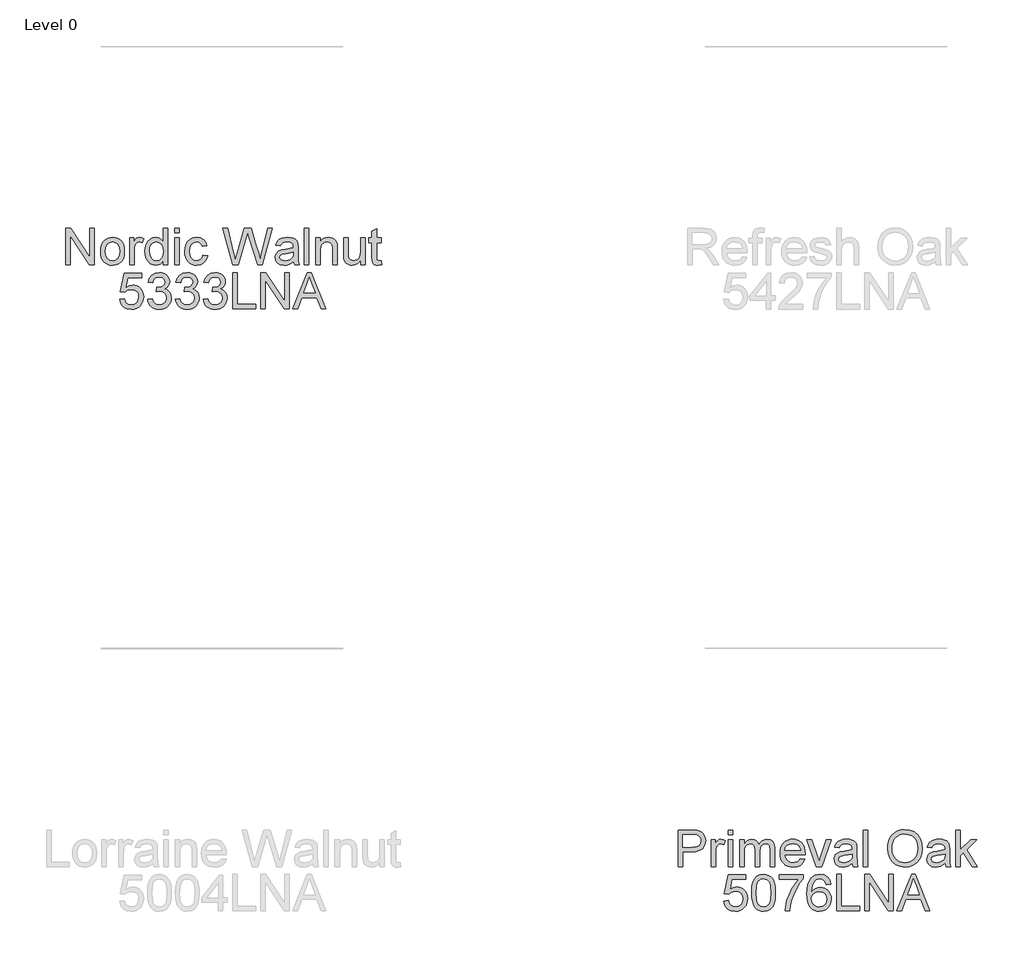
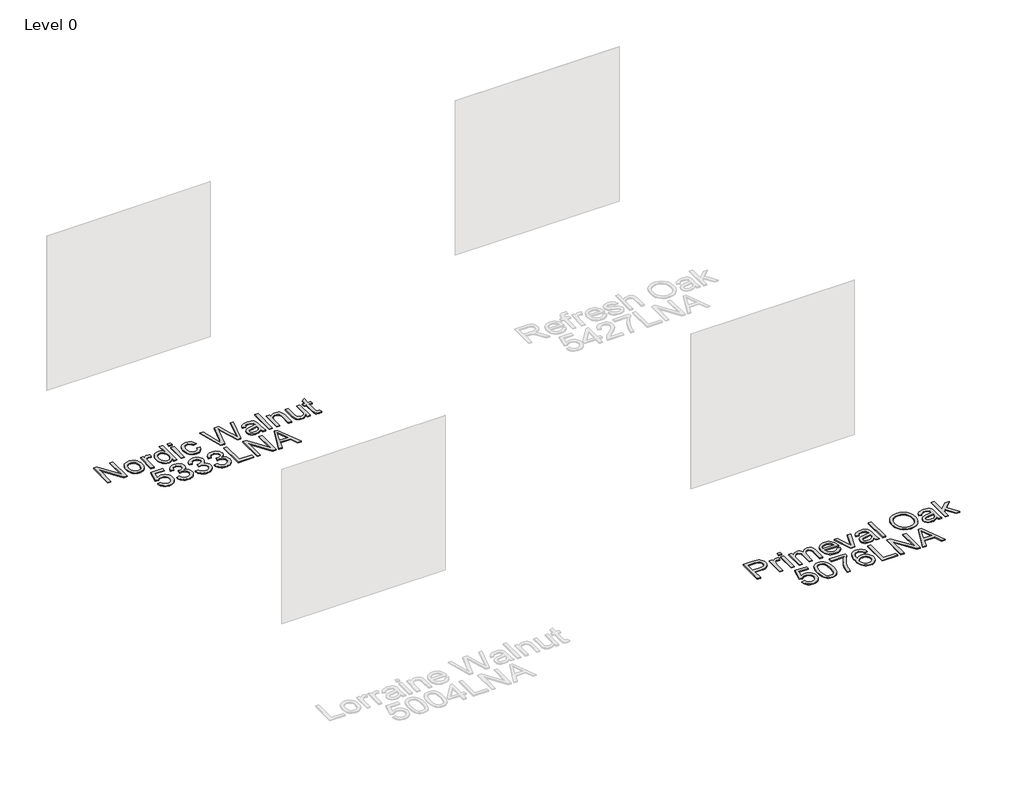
# One storey, part 38 of 43: 2 proxies.
"""IFC4 building model written with IfcOpenShell, lengths in millimetres."""

from ifc_helpers import new_model, si_unit, origin, origin_with_axes, place, context, project, spatial, polyline, outline, extrude, element, save

model = new_model("IFC4")

# Units and contexts
model_context = context("Model", 3, world=origin())
ifc_project = project(units=[si_unit("LENGTHUNIT", "METRE", prefix="MILLI")], contexts=[model_context])

# Site, building, storey
site = spatial("IfcSite", under=ifc_project)
building = spatial("IfcBuilding", under=site)
storey = spatial("IfcBuildingStorey", under=building, Name="Level 0", Elevation=0.0)

# Proxies
placement = place(None, origin())
element("IfcBuildingElementProxy", 1, Name="300mm Arial", ObjectType="300mm Arial", at=placement, inside=storey, context=model_context, shape_type="SweptSolid", body=[
    extrude(outline(polyline([(31256.7517654, -22016.4454346), (31256.7517654, -21715.0765041), (31297.0716321, -21715.0765041), (31454.525126, -21953.831919), (31454.525126, -21715.0765041), (31492.1962424, -21715.0765041), (31492.1962424, -22016.4454346), (31451.8763757, -22016.4454346), (31294.4228817, -21777.6164433), (31294.4228817, -22016.4454346), (31256.7517654, -22016.4454346)])), origin_with_axes(), (0.0, 0.0, 1.0), 10.0),
    extrude(outline(polyline([(31543.9940273, -21905.7865304), (31546.0311738, -21877.1239245), (31552.1426135, -21852.425247), (31562.3283462, -21831.690498), (31576.588372, -21814.9196776), (31590.9449669, -21804.200516), (31606.7914839, -21796.5439719), (31624.1279229, -21791.9500455), (31642.954284, -21790.4187367), (31663.7373174, -21792.2834386), (31682.5291896, -21797.8775442), (31699.3299005, -21807.2010535), (31714.13945, -21820.2539665), (31726.2266728, -21836.5948249), (31734.8604034, -21855.7821702), (31740.0406418, -21877.8160025), (31741.7673879, -21902.6963216), (31738.7139673, -21940.753714), (31729.5537056, -21969.7244212), (31714.5533173, -21991.4202618), (31693.9795167, -22007.6530549), (31669.5429552, -22017.7790068), (31642.954284, -22021.1543241), (31621.8677479, -22019.29652), (31602.9011318, -22013.7231078), (31586.0544356, -22004.4340874), (31571.3276595, -21991.4294589), (31559.3691954, -21974.9299514), (31550.8274353, -21955.1562942), (31545.7023793, -21932.1084872), (31543.9940273, -21905.7865304)]), holes=[polyline([(31581.6651436, -21905.712954), (31586.0245452, -21939.8064179), (31599.1027502, -21964.0958266), (31618.7844369, -21978.6363625), (31642.954284, -21983.4832078), (31667.0137665, -21978.6087713), (31686.658665, -21963.985462), (31699.7368699, -21939.3741566), (31704.0962716, -21904.5357316), (31699.7092788, -21871.4355491), (31686.5483004, -21847.4772342), (31666.8758107, -21832.9366983), (31642.954284, -21828.089853), (31618.7844369, -21832.9183042), (31599.1027502, -21847.4036578), (31586.0245452, -21871.6378842), (31581.6651436, -21905.712954)])]), origin_with_axes(), (0.0, 0.0, 1.0), 10.0),
    extrude(outline(polyline([(31784.1473937, -22016.4454346), (31784.1473937, -21795.1276263), (31817.1096205, -21795.1276263), (31817.1096205, -21827.8691238), (31829.2865145, -21808.8864129), (31840.5069154, -21797.7028002), (31851.7641044, -21792.2397526), (31864.0513631, -21790.4187367), (31882.8133448, -21793.3250045), (31901.8696322, -21802.0438078), (31889.2880679, -21835.8153749), (31876.0443161, -21830.0212335), (31862.8005643, -21828.089853), (31851.5525723, -21829.9476571), (31841.5001968, -21835.5210693), (31833.3792017, -21844.3870254), (31827.9253512, -21856.1224611), (31823.3452203, -21877.1653112), (31821.81851, -21900.1211477), (31821.81851, -22016.4454346), (31784.1473937, -22016.4454346)])), origin_with_axes(), (0.0, 0.0, 1.0), 10.0),
    extrude(outline(polyline([(32061.9718765, -22016.4454346), (32061.9718765, -21980.9080338), (32050.7008919, -21998.5157858), (32037.0478713, -22011.0927515), (32021.0128148, -22018.6389309), (32002.5957225, -22021.1543241), (31978.2419344, -22017.5122923), (31955.9482855, -22006.5861971), (31937.0759391, -21989.1393935), (31922.9860587, -21965.9352366), (31914.2120731, -21937.9118256), (31911.2874113, -21906.0072596), (31913.9821469, -21874.4981667), (31922.0663537, -21846.0424944), (31935.5308347, -21822.2589234), (31954.3663929, -21804.7661345), (31977.1474854, -21794.0055862), (32002.4485697, -21790.4187367), (32020.8794576, -21792.9847136), (32037.17663, -21800.6826444), (32050.9905989, -21812.4824594), (32061.9718765, -21827.354089), (32061.9718765, -21715.0765041), (32099.6429928, -21715.0765041), (32099.6429928, -22016.4454346), (32061.9718765, -22016.4454346)]), holes=[polyline([(31948.9585276, -21905.8601068), (31953.2075646, -21939.9351766), (31965.9546757, -21964.169403), (31984.4775342, -21978.6547566), (32006.0538132, -21983.4832078), (32027.6208952, -21978.8754858), (32045.6747041, -21965.0523198), (32057.8975834, -21941.7561925), (32061.9718765, -21908.7295864), (32057.824007, -21872.6219685), (32045.3803985, -21847.5875988), (32026.8667371, -21832.9642895), (32004.5087088, -21828.089853), (31982.7117006, -21832.7711514), (31964.8510298, -21846.8150466), (31952.9316531, -21870.9389084), (31948.9585276, -21905.8601068)])]), origin_with_axes(), (0.0, 0.0, 1.0), 10.0),
    extrude(outline(polyline([(32156.1496672, -21752.7476204), (32156.1496672, -21715.0765041), (32193.8207836, -21715.0765041), (32193.8207836, -21752.7476204), (32156.1496672, -21752.7476204)])), origin_with_axes(), (0.0, 0.0, 1.0), 10.0),
    extrude(outline(polyline([(32156.1496672, -22016.4454346), (32156.1496672, -21795.1276263), (32193.8207836, -21795.1276263), (32193.8207836, -22016.4454346), (32156.1496672, -22016.4454346)])), origin_with_axes(), (0.0, 0.0, 1.0), 10.0),
    extrude(outline(polyline([(32391.5941442, -21936.3943124), (32429.2652605, -21941.1032019), (32418.7622295, -21974.6080546), (32399.0253605, -21999.927533), (32371.9124574, -22015.8476263), (32339.2813244, -22021.1543241), (32318.1534016, -22019.3034178), (32299.2097781, -22013.7506989), (32282.450454, -22004.4961675), (32267.8754292, -21991.5398235), (32256.0779134, -21975.1253887), (32247.6511165, -21955.496585), (32242.5950383, -21932.6534124), (32240.9096789, -21906.5958708), (32243.7883555, -21873.072624), (32252.4243854, -21844.0191434), (32266.9557242, -21820.5574692), (32287.5203277, -21803.8096413), (32312.1224362, -21793.7664629), (32338.7662897, -21790.4187367), (32370.5972793, -21795.0172617), (32396.0455163, -21808.8128365), (32414.3016603, -21831.0696972), (32424.5563709, -21861.0520798), (32386.8852546, -21865.7609693), (32380.0518466, -21849.3258412), (32369.4108599, -21837.5444203), (32355.5509057, -21830.4534948), (32339.0605952, -21828.089853), (32314.7160042, -21832.7435603), (32295.3930024, -21846.704682), (32282.783847, -21870.7273763), (32278.5807952, -21905.5658012), (32282.6918765, -21940.8732757), (32295.0251204, -21964.9787434), (32313.9986343, -21978.8570917), (32338.0305257, -21983.4832078), (32357.5374685, -21980.5953341), (32373.5311382, -21971.9317131), (32385.1654063, -21957.2716156), (32391.5941442, -21936.3943124)])), origin_with_axes(), (0.0, 0.0, 1.0), 10.0),
    extrude(outline(polyline([(32638.5901157, -22016.4454346), (32556.405278, -21715.0765041), (32595.2536167, -21715.0765041), (32642.9311233, -21913.1441703), (32657.6464031, -21974.2861579), (32673.3917525, -21920.2075046), (32733.1357885, -21715.0765041), (32789.1274281, -21715.0765041), (32832.5375036, -21863.7744066), (32851.1339384, -21918.9567058), (32864.8375428, -21974.2861579), (32879.1113642, -21914.9100039), (32927.2303291, -21715.0765041), (32966.0786678, -21715.0765041), (32883.8202537, -22016.4454346), (32843.5739634, -22016.4454346), (32771.3219396, -21783.9440136), (32761.2419729, -21751.4968216), (32749.9112075, -21790.5658895), (32684.0603303, -22016.4454346), (32638.5901157, -22016.4454346)])), origin_with_axes(), (0.0, 0.0, 1.0), 10.0),
    extrude(outline(polyline([(33140.3075807, -21988.1920973), (33122.3089541, -22003.624747), (33103.7768986, -22013.7231078), (33084.2883499, -22019.29652), (33063.4202438, -22021.1543241), (33031.938742, -22016.6845578), (33008.7161911, -22003.2752591), (32994.3963844, -21982.9129907), (32989.6231155, -21957.5843153), (32991.4257373, -21941.9677246), (32996.8336026, -21927.7858737), (33005.1753269, -21915.6457679), (33015.7795254, -21906.1544124), (33042.1566644, -21893.7935774), (33074.7510092, -21888.1281946), (33113.2682541, -21882.1685063), (33140.0868515, -21875.1787484), (33140.3075807, -21866.7910389), (33137.7140127, -21849.9788317), (33129.9333085, -21838.9791601), (33112.5324901, -21830.8121798), (33088.2890666, -21828.089853), (33065.8482649, -21829.9016718), (33050.1764919, -21835.3371283), (33039.48952, -21845.3895038), (33032.0031214, -21861.0520798), (32994.3320051, -21856.3431903), (33000.8711075, -21835.7417985), (33010.6291774, -21819.5549907), (33024.5167228, -21807.1757616), (33043.4442514, -21797.9971058), (33066.593226, -21792.313329), (33093.145109, -21790.4187367), (33118.6117401, -21792.0925998), (33138.7992646, -21797.114189), (33154.0203821, -21804.664967), (33164.5877924, -21813.9263962), (33171.5959444, -21825.3767233), (33176.1392871, -21839.4941949), (33177.9786971, -21872.4564216), (33177.9786971, -21919.3245878), (33179.8916834, -21984.7707948), (33187.3964761, -22016.4454346), (33149.7253598, -22016.4454346), (33140.3075807, -21988.1920973)]), holes=[polyline([(33140.3075807, -21912.8498647), (33079.5334751, -21924.4013594), (33047.1230714, -21930.5082005), (33032.4445798, -21940.4410143), (33027.2942318, -21954.935565), (33030.099332, -21966.1375717), (33038.5146327, -21975.3162275), (33052.3561927, -21981.4414627), (33071.4400712, -21983.4832078), (33091.673581, -21981.2299306), (33109.5526459, -21974.4700989), (33124.0471966, -21964.5096939), (33134.1271632, -21952.6546966), (33138.5969295, -21940.4410143), (33140.0868515, -21923.5184426), (33140.3075807, -21912.8498647)])]), origin_with_axes(), (0.0, 0.0, 1.0), 10.0),
    extrude(outline(polyline([(33229.776482, -22016.4454346), (33229.776482, -21715.0765041), (33267.4475983, -21715.0765041), (33267.4475983, -22016.4454346), (33229.776482, -22016.4454346)])), origin_with_axes(), (0.0, 0.0, 1.0), 10.0),
    extrude(outline(polyline([(33323.9542727, -22016.4454346), (33323.9542727, -21795.1276263), (33361.625389, -21795.1276263), (33361.625389, -21826.0297138), (33374.712791, -21810.4499114), (33390.4305493, -21799.321481), (33408.7786638, -21792.6444228), (33429.7571345, -21790.4187367), (33448.3259783, -21792.2121614), (33465.3313235, -21797.5924356), (33479.5131744, -21805.8881746), (33489.6115352, -21816.4279938), (33500.9055124, -21844.129508), (33502.8920752, -21880.5498255), (33502.8920752, -22016.4454346), (33465.2209589, -22016.4454346), (33465.2209589, -21885.6265971), (33460.8799513, -21852.2964883), (33454.8742778, -21842.3728715), (33445.5392721, -21834.6749407), (33433.5739102, -21829.7361249), (33419.6771679, -21828.089853), (33397.6134452, -21831.7870671), (33378.8054782, -21842.8787092), (33371.2891892, -21851.9332048), (33365.9204113, -21864.3078354), (33361.625389, -21899.0175017), (33361.625389, -22016.4454346), (33323.9542727, -22016.4454346)])), origin_with_axes(), (0.0, 0.0, 1.0), 10.0),
    extrude(outline(polyline([(33695.9565463, -22016.4454346), (33695.9565463, -21978.4064362), (33682.3265183, -21997.1086372), (33666.4524102, -22010.4673521), (33648.334222, -22018.4825811), (33627.9719536, -22021.1543241), (33609.623839, -22019.2781259), (33592.5449174, -22013.6495314), (33578.2159137, -22005.1882455), (33568.1175529, -21994.8139732), (33556.8971521, -21967.0756708), (33554.6898601, -21932.0533049), (33554.6898601, -21795.1276263), (33592.3609764, -21795.1276263), (33592.3609764, -21914.3213927), (33594.6418448, -21952.728273), (33600.1324836, -21965.5397635), (33609.5410656, -21975.2794393), (33622.2421915, -21981.4322657), (33637.6104618, -21983.4832078), (33653.861649, -21981.3862804), (33669.0643724, -21975.0954983), (33681.5999514, -21965.1902756), (33689.8497051, -21952.2500264), (33694.429836, -21934.5273113), (33695.9565463, -21910.2746907), (33695.9565463, -21795.1276263), (33733.6276626, -21795.1276263), (33733.6276626, -22016.4454346), (33695.9565463, -22016.4454346)])), origin_with_axes(), (0.0, 0.0, 1.0), 10.0),
    extrude(outline(polyline([(33865.4765696, -21985.0283122), (33870.1854592, -22017.5490805), (33842.0056983, -22021.1543241), (33823.9242983, -22019.5908256), (33810.4414232, -22014.9003302), (33800.9132795, -22007.671449), (33794.6960738, -21998.4927932), (33791.2747712, -21982.7290497), (33790.134337, -21955.7449053), (33790.134337, -21832.7987426), (33761.8809998, -21832.7987426), (33761.8809998, -21795.1276263), (33790.134337, -21795.1276263), (33790.134337, -21741.3432786), (33827.8054533, -21719.1967824), (33827.8054533, -21795.1276263), (33865.4765696, -21795.1276263), (33865.4765696, -21832.7987426), (33827.8054533, -21832.7987426), (33827.8054533, -21954.6412594), (33829.7920161, -21974.0654287), (33836.229951, -21980.944822), (33849.0690327, -21983.4832078), (33865.4765696, -21985.0283122)])), origin_with_axes(), (0.0, 0.0, 1.0), 10.0),
    extrude(outline(polyline([(31701.7418268, -22302.3187659), (31739.4129431, -22297.6098764), (31746.3291246, -22320.2254221), (31758.3956541, -22336.4214269), (31775.5573491, -22346.1611027), (31797.7590275, -22349.4076613), (31824.761566, -22344.8919098), (31844.9950757, -22331.3446554), (31857.6318223, -22310.3293964), (31861.8440711, -22283.4096314), (31857.8985367, -22258.0625619), (31846.0619335, -22238.6751808), (31826.242291, -22226.369528), (31798.3476387, -22222.2676438), (31780.0731006, -22223.9047187), (31765.2750474, -22228.8159433), (31744.1218326, -22245.8120915), (31706.4507163, -22241.1032019), (31739.4129431, -22085.7098472), (31885.3885188, -22085.7098472), (31885.3885188, -22123.3809635), (31769.8735723, -22123.3809635), (31753.7603409, -22206.3751416), (31780.6709089, -22190.041181), (31808.8690638, -22184.5965275), (31827.214879, -22186.2841861), (31844.0661737, -22191.3471621), (31859.4229477, -22199.7854554), (31873.2852012, -22211.5990659), (31884.7608201, -22226.0660254), (31892.9576908, -22242.4643653), (31897.8758133, -22260.7940857), (31899.5151874, -22281.0551866), (31893.6106814, -22318.7263029), (31886.2300489, -22335.520116), (31875.8971633, -22350.9527657), (31860.2437844, -22366.7578959), (31841.9784434, -22378.0472746), (31821.1011401, -22384.8209019), (31797.6118747, -22387.0787776), (31760.6121431, -22381.2754392), (31744.9334723, -22374.0212661), (31731.1355982, -22363.8654237), (31719.6553807, -22351.3137499), (31710.9296796, -22336.8720823), (31701.7418268, -22302.3187659)])), origin_with_axes(), (0.0, 0.0, 1.0), 10.0),
    extrude(outline(polyline([(31932.4774142, -22302.3187659), (31970.1485305, -22297.6098764), (31978.5822252, -22321.2830828), (31990.9338632, -22337.2675555), (32007.8104497, -22346.3726349), (32029.8189901, -22349.4076613), (32055.6443062, -22345.2322007), (32075.5835103, -22332.7058187), (32088.3306214, -22314.0174134), (32092.5796585, -22291.3558825), (32088.3674096, -22269.8439828), (32075.7306631, -22252.3971792), (32056.6007994, -22240.8364875), (32032.9091989, -22236.9829236), (32006.4952716, -22241.1032019), (32010.6891264, -22203.4320856), (32016.7223911, -22203.873544), (32039.2919515, -22201.1696114), (32059.4702789, -22193.0578134), (32073.7073121, -22179.3358149), (32078.4529899, -22159.801281), (32075.0132932, -22143.5316998), (32064.6942032, -22130.3339332), (32048.9488539, -22121.5875388), (32029.2303789, -22118.6720739), (32009.4751158, -22121.6151299), (31993.3250962, -22130.4442978), (31981.5344782, -22145.1595776), (31974.85742, -22165.7609693), (31937.1863037, -22161.0520798), (31948.2779459, -22127.2253303), (31968.0148149, -22101.9702314), (31995.0173534, -22086.2432761), (32027.9060037, -22081.0009576), (32051.5884072, -22083.5853287), (32073.3394301, -22091.3384417), (32091.6783476, -22103.570518), (32105.1244345, -22119.5917789), (32113.3741883, -22138.050258), (32116.1241062, -22157.593989), (32113.512144, -22175.8041478), (32105.6762575, -22192.3220494), (32092.7268113, -22206.3935357), (32074.7741699, -22217.2644487), (32098.3554058, -22226.7925923), (32115.8298006, -22243.0161883), (32126.6455312, -22265.0523198), (32130.2507748, -22292.0180701), (32128.448153, -22311.1295397), (32123.0402877, -22328.7326932), (32114.0271788, -22344.8275305), (32101.4088264, -22359.4140516), (32086.0359575, -22371.5173692), (32068.7592993, -22380.1625961), (32049.5788518, -22385.3497322), (32028.4946149, -22387.0787776), (32009.4383276, -22385.6026511), (31992.0742974, -22381.1742716), (31976.4025244, -22373.7936391), (31962.4230086, -22363.4607535), (31950.7013685, -22350.7826203), (31941.8032228, -22336.3662446), (31935.7285713, -22320.2116265), (31932.4774142, -22302.3187659)])), origin_with_axes(), (0.0, 0.0, 1.0), 10.0),
    extrude(outline(polyline([(32163.2130016, -22302.3187659), (32200.8841179, -22297.6098764), (32209.3178126, -22321.2830828), (32221.6694506, -22337.2675555), (32238.5460371, -22346.3726349), (32260.5545775, -22349.4076613), (32286.3798935, -22345.2322007), (32306.3190977, -22332.7058187), (32319.0662088, -22314.0174134), (32323.3152459, -22291.3558825), (32319.102997, -22269.8439828), (32306.4662505, -22252.3971792), (32287.3363867, -22240.8364875), (32263.6447862, -22236.9829236), (32237.230859, -22241.1032019), (32241.4247137, -22203.4320856), (32247.4579785, -22203.873544), (32270.0275389, -22201.1696114), (32290.2058663, -22193.0578134), (32304.4428995, -22179.3358149), (32309.1885772, -22159.801281), (32305.7488806, -22143.5316998), (32295.4297906, -22130.3339332), (32279.6844412, -22121.5875388), (32259.9659663, -22118.6720739), (32240.2107031, -22121.6151299), (32224.0606836, -22130.4442978), (32212.2700656, -22145.1595776), (32205.5930074, -22165.7609693), (32167.9218911, -22161.0520798), (32179.0135332, -22127.2253303), (32198.7504023, -22101.9702314), (32225.7529407, -22086.2432761), (32258.6415911, -22081.0009576), (32282.3239945, -22083.5853287), (32304.0750175, -22091.3384417), (32322.413935, -22103.570518), (32335.8600219, -22119.5917789), (32344.1097756, -22138.050258), (32346.8596935, -22157.593989), (32344.2477314, -22175.8041478), (32336.4118449, -22192.3220494), (32323.4623987, -22206.3935357), (32305.5097573, -22217.2644487), (32329.0909932, -22226.7925923), (32346.565388, -22243.0161883), (32357.3811186, -22265.0523198), (32360.9863622, -22292.0180701), (32359.1837404, -22311.1295397), (32353.7758751, -22328.7326932), (32344.7627662, -22344.8275305), (32332.1444137, -22359.4140516), (32316.7715449, -22371.5173692), (32299.4948867, -22380.1625961), (32280.3144391, -22385.3497322), (32259.2302023, -22387.0787776), (32240.1739149, -22385.6026511), (32222.8098848, -22381.1742716), (32207.1381118, -22373.7936391), (32193.158596, -22363.4607535), (32181.4369559, -22350.7826203), (32172.5388101, -22336.3662446), (32166.4641587, -22320.2116265), (32163.2130016, -22302.3187659)])), origin_with_axes(), (0.0, 0.0, 1.0), 10.0),
    extrude(outline(polyline([(32393.9485889, -22302.3187659), (32431.6197052, -22297.6098764), (32440.0534, -22321.2830828), (32452.405038, -22337.2675555), (32469.2816245, -22346.3726349), (32491.2901649, -22349.4076613), (32517.1154809, -22345.2322007), (32537.0546851, -22332.7058187), (32549.8017962, -22314.0174134), (32554.0508332, -22291.3558825), (32549.8385844, -22269.8439828), (32537.2018379, -22252.3971792), (32518.0719741, -22240.8364875), (32494.3803736, -22236.9829236), (32467.9664464, -22241.1032019), (32472.1603011, -22203.4320856), (32478.1935658, -22203.873544), (32500.7631262, -22201.1696114), (32520.9414537, -22193.0578134), (32535.1784869, -22179.3358149), (32539.9241646, -22159.801281), (32536.484468, -22143.5316998), (32526.165378, -22130.3339332), (32510.4200286, -22121.5875388), (32490.7015537, -22118.6720739), (32470.9462905, -22121.6151299), (32454.7962709, -22130.4442978), (32443.005653, -22145.1595776), (32436.3285948, -22165.7609693), (32398.6574785, -22161.0520798), (32409.7491206, -22127.2253303), (32429.4859897, -22101.9702314), (32456.4885281, -22086.2432761), (32489.3771785, -22081.0009576), (32513.0595819, -22083.5853287), (32534.8106049, -22091.3384417), (32553.1495223, -22103.570518), (32566.5956093, -22119.5917789), (32574.845363, -22138.050258), (32577.5952809, -22157.593989), (32574.9833188, -22175.8041478), (32567.1474323, -22192.3220494), (32554.197986, -22206.3935357), (32536.2453447, -22217.2644487), (32559.8265806, -22226.7925923), (32577.3009753, -22243.0161883), (32588.116706, -22265.0523198), (32591.7219495, -22292.0180701), (32589.9193278, -22311.1295397), (32584.5114624, -22328.7326932), (32575.4983535, -22344.8275305), (32562.8800011, -22359.4140516), (32547.5071322, -22371.5173692), (32530.230474, -22380.1625961), (32511.0500265, -22385.3497322), (32489.9657897, -22387.0787776), (32470.9095023, -22385.6026511), (32453.5454721, -22381.1742716), (32437.8736992, -22373.7936391), (32423.8941833, -22363.4607535), (32412.1725433, -22350.7826203), (32403.2743975, -22336.3662446), (32397.1997461, -22320.2116265), (32393.9485889, -22302.3187659)])), origin_with_axes(), (0.0, 0.0, 1.0), 10.0),
    extrude(outline(polyline([(32638.8108449, -22382.3698881), (32638.8108449, -22081.0009576), (32676.4819612, -22081.0009576), (32676.4819612, -22344.6987718), (32827.1664264, -22344.6987718), (32827.1664264, -22382.3698881), (32638.8108449, -22382.3698881)])), origin_with_axes(), (0.0, 0.0, 1.0), 10.0),
    extrude(outline(polyline([(32869.5464323, -22382.3698881), (32869.5464323, -22081.0009576), (32909.866299, -22081.0009576), (33067.3197929, -22319.7563725), (33067.3197929, -22081.0009576), (33104.9909092, -22081.0009576), (33104.9909092, -22382.3698881), (33064.6710425, -22382.3698881), (32907.2175486, -22143.5408968), (32907.2175486, -22382.3698881), (32869.5464323, -22382.3698881)])), origin_with_axes(), (0.0, 0.0, 1.0), 10.0),
    extrude(outline(polyline([(33135.8194204, -22382.3698881), (33256.1168328, -22081.0009576), (33288.1961428, -22081.0009576), (33408.4935552, -22382.3698881), (33368.6887234, -22382.3698881), (33334.1813922, -22288.1920973), (33210.058007, -22288.1920973), (33175.6242523, -22382.3698881), (33135.8194204, -22382.3698881)]), holes=[polyline([(33223.89037, -22250.520981), (33320.4226056, -22250.520981), (33293.2729143, -22176.4295472), (33272.1564878, -22118.6720739), (33253.3945061, -22169.9548241), (33223.89037, -22250.520981)])]), origin_with_axes(), (0.0, 0.0, 1.0), 10.0),
])
element("IfcBuildingElementProxy", 2, Name="300mm Arial", ObjectType="300mm Arial", at=placement, inside=storey, context=model_context, shape_type="SweptSolid", body=[
    extrude(outline(polyline([(36325.0306637, -26997.860494), (36325.0306637, -26696.4915635), (36436.7196375, -26696.4915635), (36481.7483937, -26699.3610431), (36501.8255536, -26704.7229232), (36518.3526522, -26713.4509235), (36531.6607834, -26725.9405172), (36542.0810409, -26742.5871775), (36548.8132814, -26762.222879), (36551.0573616, -26783.6795964), (36549.5421476, -26802.1794622), (36544.9965057, -26819.198603), (36537.4204359, -26834.7370188), (36526.8139381, -26848.7947095), (36512.2527089, -26860.4473717), (36492.8124447, -26868.7707019), (36468.4931456, -26873.7647), (36439.2948114, -26875.429366), (36362.7017801, -26875.429366), (36362.7017801, -26997.860494), (36325.0306637, -26997.860494)]), holes=[polyline([(36362.7017801, -26837.7582497), (36441.5021034, -26837.7582497), (36474.9057886, -26834.3001589), (36496.9787083, -26823.9258867), (36509.284361, -26807.2792264), (36513.3862453, -26785.0039716), (36510.9674212, -26768.0813998), (36503.7109488, -26753.8075784), (36492.5181391, -26743.0654241), (36478.2903029, -26736.7378538), (36440.6191866, -26734.1626798), (36362.7017801, -26734.1626798), (36362.7017801, -26837.7582497)])]), origin_with_axes(), (0.0, 0.0, 1.0), 10.0),
    extrude(outline(polyline([(36598.146257, -26997.860494), (36598.146257, -26776.5426857), (36631.1084837, -26776.5426857), (36631.1084837, -26809.2841833), (36643.2853778, -26790.3014723), (36654.5057786, -26779.1178596), (36665.7629677, -26773.654812), (36678.0502263, -26771.8337961), (36696.8122081, -26774.7400639), (36715.8684954, -26783.4588672), (36703.2869312, -26817.2304343), (36690.0431794, -26811.4362929), (36676.7994275, -26809.5049125), (36665.5514355, -26811.3627165), (36655.49906, -26816.9361288), (36647.378065, -26825.8020848), (36641.9242144, -26837.5375205), (36637.3440835, -26858.5803706), (36635.8173733, -26881.5362071), (36635.8173733, -26997.860494), (36598.146257, -26997.860494)])), origin_with_axes(), (0.0, 0.0, 1.0), 10.0),
    extrude(outline(polyline([(36739.4129431, -26997.860494), (36739.4129431, -26776.5426857), (36777.0840594, -26776.5426857), (36777.0840594, -26997.860494), (36739.4129431, -26997.860494)])), origin_with_axes(), (0.0, 0.0, 1.0), 10.0),
    extrude(outline(polyline([(36739.4129431, -26734.1626798), (36739.4129431, -26696.4915635), (36777.0840594, -26696.4915635), (36777.0840594, -26734.1626798), (36739.4129431, -26734.1626798)])), origin_with_axes(), (0.0, 0.0, 1.0), 10.0),
    extrude(outline(polyline([(36833.5907339, -26997.860494), (36833.5907339, -26776.5426857), (36871.2618502, -26776.5426857), (36871.2618502, -26812.9630032), (36882.5926156, -26796.2335695), (36897.1607426, -26783.1277734), (36914.4695905, -26774.6572905), (36934.0225186, -26771.8337961), (36954.9733982, -26774.7124728), (36971.7672113, -26783.3485026), (36984.3119873, -26797.1716686), (36992.5157558, -26815.6117536), (37006.2469513, -26796.4588972), (37021.9095272, -26782.7782855), (37039.5034836, -26774.5699185), (37059.0288205, -26771.8337961), (37087.3465371, -26776.3863358), (37108.2882197, -26790.0439549), (37121.2284689, -26813.1745354), (37125.5418852, -26846.1459592), (37125.5418852, -26997.860494), (37087.8707689, -26997.860494), (37087.8707689, -26862.332767), (37084.37589, -26830.8788564), (37079.4646654, -26822.2060383), (37071.7207494, -26815.3910244), (37061.7603443, -26810.9764404), (37050.1996526, -26809.5049125), (37029.791399, -26813.2757029), (37013.1539357, -26824.5880743), (37002.0898847, -26844.2145787), (36998.4018677, -26872.9277684), (36998.4018677, -26997.860494), (36960.7307514, -26997.860494), (36960.7307514, -26858.1389122), (36958.5510506, -26836.8385447), (36952.0119481, -26821.6450183), (36940.5064387, -26812.5399389), (36923.4275171, -26809.5049125), (36908.9145724, -26811.5282634), (36895.5420619, -26817.5983163), (36884.505602, -26827.5679184), (36877.0008093, -26841.2899168), (36872.69659, -26860.3278101), (36871.2618502, -26886.2450966), (36871.2618502, -26997.860494), (36833.5907339, -26997.860494)])), origin_with_axes(), (0.0, 0.0, 1.0), 10.0),
    extrude(outline(polyline([(37337.0004561, -26931.9360404), (37373.9358084, -26936.64493), (37360.6276772, -26964.4752029), (37339.391689, -26985.2789297), (37310.7060905, -26998.2467701), (37275.0491281, -27002.5693835), (37251.6748258, -27000.7046817), (37230.8481064, -26995.1105761), (37212.5689697, -26985.7870668), (37196.8374159, -26972.7341537), (37184.1868738, -26956.3151204), (37175.1507723, -26936.8932503), (37169.7291114, -26914.4685435), (37167.9218911, -26889.0409998), (37169.7475055, -26862.7512327), (37175.2243487, -26839.5792656), (37184.3524207, -26819.5250983), (37197.1317215, -26802.5887309), (37212.8218886, -26789.133447), (37230.6825595, -26779.5225298), (37250.7137341, -26773.7559796), (37272.9154125, -26771.8337961), (37294.4020203, -26773.751381), (37313.8330874, -26779.5041357), (37331.2086139, -26789.0920602), (37346.5285998, -26802.5151545), (37359.0342883, -26819.4147337), (37367.966923, -26839.4321128), (37373.3265038, -26862.5672917), (37375.1130308, -26888.8202706), (37374.8923016, -26898.9738137), (37205.5930074, -26898.9738137), (37212.1137158, -26927.1719686), (37227.2612569, -26947.902119), (37249.1226445, -26960.6492302), (37275.7848921, -26964.8982672), (37295.8344608, -26962.9300985), (37312.7202444, -26957.0255925), (37326.4422428, -26946.8168672), (37337.0004561, -26931.9360404)]), holes=[polyline([(37205.5930074, -26861.3026974), (37337.4419145, -26861.3026974), (37332.3467488, -26841.4002814), (37322.3587527, -26827.1632482), (37300.3961976, -26813.9194964), (37272.7682597, -26809.5049125), (37247.375205, -26813.0273826), (37226.3783401, -26823.5947929), (37211.782622, -26840.0667092), (37205.5930074, -26861.3026974)])]), origin_with_axes(), (0.0, 0.0, 1.0), 10.0),
    extrude(outline(polyline([(37467.0835296, -26997.860494), (37389.2396994, -26776.5426857), (37429.1181077, -26776.5426857), (37476.2805795, -26909.1273567), (37490.4808245, -26953.7146546), (37504.3867639, -26911.6289543), (37551.8435413, -26776.5426857), (37591.7219495, -26776.5426857), (37514.8346125, -26997.860494), (37467.0835296, -26997.860494)])), origin_with_axes(), (0.0, 0.0, 1.0), 10.0),
    extrude(outline(polyline([(37765.9508625, -26969.6071568), (37747.9522358, -26985.0398064), (37729.4201803, -26995.1381672), (37709.9316316, -27000.7115794), (37689.0635255, -27002.5693835), (37657.5820237, -26998.0996173), (37634.3594728, -26984.6903186), (37620.0396661, -26964.3280501), (37615.2663972, -26938.9993748), (37617.069019, -26923.3827841), (37622.4768843, -26909.2009331), (37630.8186086, -26897.0608273), (37641.4228071, -26887.5694718), (37667.7999461, -26875.2086368), (37700.3942909, -26869.5432541), (37738.9115358, -26863.5835657), (37765.7301333, -26856.5938078), (37765.9508625, -26848.2060983), (37763.3572944, -26831.3938912), (37755.5765902, -26820.3942195), (37738.1757718, -26812.2272392), (37713.9323483, -26809.5049125), (37691.4915466, -26811.3167313), (37675.8197736, -26816.7521878), (37665.1328017, -26826.8045633), (37657.6464031, -26842.4671392), (37619.9752868, -26837.7582497), (37626.5143892, -26817.156858), (37636.2724592, -26800.9700502), (37650.1600045, -26788.590821), (37669.0875331, -26779.4121652), (37692.2365077, -26773.7283884), (37718.7883907, -26771.8337961), (37744.2550218, -26773.5076592), (37764.4425463, -26778.5292485), (37779.6636638, -26786.0800264), (37790.2310741, -26795.3414556), (37797.2392261, -26806.7917827), (37801.7825688, -26820.9092543), (37803.6219788, -26853.8714811), (37803.6219788, -26900.7396473), (37805.5349651, -26966.1858542), (37813.0397578, -26997.860494), (37775.3686415, -26997.860494), (37765.9508625, -26969.6071568)]), holes=[polyline([(37765.9508625, -26894.2649241), (37705.1767568, -26905.8164188), (37672.7663531, -26911.9232599), (37658.0878615, -26921.8560738), (37652.9375135, -26936.3506244), (37655.7426137, -26947.5526311), (37664.1579144, -26956.7312869), (37677.9994745, -26962.8565221), (37697.083353, -26964.8982672), (37717.3168627, -26962.64499), (37735.1959277, -26955.8851583), (37749.6904783, -26945.9247533), (37759.7704449, -26934.069756), (37764.2402112, -26921.8560738), (37765.7301333, -26904.933502), (37765.9508625, -26894.2649241)])]), origin_with_axes(), (0.0, 0.0, 1.0), 10.0),
    extrude(outline(polyline([(37855.4197637, -26997.860494), (37855.4197637, -26696.4915635), (37893.09088, -26696.4915635), (37893.09088, -26997.860494), (37855.4197637, -26997.860494)])), origin_with_axes(), (0.0, 0.0, 1.0), 10.0),
    extrude(outline(polyline([(38057.9020138, -26851.1491543), (38060.4128084, -26815.8002931), (38067.9451923, -26784.5073309), (38080.4991654, -26757.2702677), (38098.0747277, -26734.0891034), (38119.618817, -26715.5800406), (38144.0783712, -26702.3592814), (38171.4533902, -26694.4268258), (38201.7438739, -26691.782674), (38241.2727943, -26696.7490809), (38276.7182246, -26711.6483017), (38306.1487842, -26735.4318727), (38327.6330927, -26767.0513302), (38340.7664799, -26804.9799639), (38345.1442757, -26847.6910636), (38340.5365537, -26890.9723803), (38326.7133877, -26929.4344429), (38304.4381329, -26961.1090827), (38274.4741444, -26984.028131), (38239.3322168, -26997.9340704), (38201.5231447, -27002.5693835), (38161.3872191, -26997.4466267), (38125.7394537, -26982.0783564), (38096.3824705, -26957.853327), (38075.1188912, -26926.1602931), (38062.2062332, -26889.6939903), (38057.9020138, -26851.1491543)]), holes=[polyline([(38095.5731301, -26851.5170363), (38097.4562261, -26876.4916252), (38103.105514, -26898.661114), (38112.5209938, -26918.0255025), (38125.7026655, -26934.5847908), (38141.7262257, -26947.8469367), (38159.6673707, -26957.3198981), (38179.5261007, -26963.0036749), (38201.3024155, -26964.8982672), (38223.4512109, -26962.9852808), (38243.5444656, -26957.2463217), (38261.5821797, -26947.6813898), (38277.5643531, -26934.2904852), (38290.6494559, -26917.381709), (38299.9959578, -26897.2631624), (38305.603859, -26873.9348454), (38307.4731594, -26847.396758), (38304.272586, -26814.0482551), (38294.6708659, -26785.2247008), (38278.9163195, -26761.6526619), (38257.257267, -26744.0587055), (38231.1284483, -26733.1050191), (38201.9646031, -26729.4537903), (38180.9447456, -26731.2127261), (38161.4424014, -26736.4895335), (38143.4575703, -26745.2842124), (38126.9902525, -26757.5967629), (38113.2452615, -26774.0203948), (38103.4274107, -26795.1483176), (38097.5367003, -26820.9805314), (38095.5731301, -26851.5170363)])]), origin_with_axes(), (0.0, 0.0, 1.0), 10.0),
    extrude(outline(polyline([(38533.4998572, -26969.6071568), (38515.5012306, -26985.0398064), (38496.9691751, -26995.1381672), (38477.4806264, -27000.7115794), (38456.6125202, -27002.5693835), (38425.1310185, -26998.0996173), (38401.9084675, -26984.6903186), (38387.5886609, -26964.3280501), (38382.815392, -26938.9993748), (38384.6180137, -26923.3827841), (38390.0258791, -26909.2009331), (38398.3676033, -26897.0608273), (38408.9718018, -26887.5694718), (38435.3489409, -26875.2086368), (38467.9432856, -26869.5432541), (38506.4605305, -26863.5835657), (38533.279128, -26856.5938078), (38533.4998572, -26848.2060983), (38530.9062891, -26831.3938912), (38523.1255849, -26820.3942195), (38505.7247666, -26812.2272392), (38481.4813431, -26809.5049125), (38459.0405414, -26811.3167313), (38443.3687684, -26816.7521878), (38432.6817964, -26826.8045633), (38425.1953978, -26842.4671392), (38387.5242815, -26837.7582497), (38394.063384, -26817.156858), (38403.8214539, -26800.9700502), (38417.7089992, -26788.590821), (38436.6365279, -26779.4121652), (38459.7855024, -26773.7283884), (38486.3373854, -26771.8337961), (38511.8040165, -26773.5076592), (38531.991541, -26778.5292485), (38547.2126586, -26786.0800264), (38557.7800689, -26795.3414556), (38564.7882209, -26806.7917827), (38569.3315635, -26820.9092543), (38571.1709735, -26853.8714811), (38571.1709735, -26900.7396473), (38573.0839599, -26966.1858542), (38580.5887526, -26997.860494), (38542.9176363, -26997.860494), (38533.4998572, -26969.6071568)]), holes=[polyline([(38533.4998572, -26894.2649241), (38472.7257516, -26905.8164188), (38440.3153478, -26911.9232599), (38425.6368562, -26921.8560738), (38420.4865083, -26936.3506244), (38423.2916085, -26947.5526311), (38431.7069091, -26956.7312869), (38445.5484692, -26962.8565221), (38464.6323477, -26964.8982672), (38484.8658574, -26962.64499), (38502.7449224, -26955.8851583), (38517.239473, -26945.9247533), (38527.3194397, -26934.069756), (38531.7892059, -26921.8560738), (38533.279128, -26904.933502), (38533.4998572, -26894.2649241)])]), origin_with_axes(), (0.0, 0.0, 1.0), 10.0),
    extrude(outline(polyline([(38622.9687584, -26997.860494), (38622.9687584, -26696.4915635), (38660.6398747, -26696.4915635), (38660.6398747, -26858.4332178), (38745.1055808, -26776.5426857), (38797.1976713, -26776.5426857), (38711.7018957, -26859.4632874), (38801.9065609, -26997.860494), (38757.9078742, -26997.860494), (38684.6993572, -26885.6564855), (38660.6398747, -26908.9802039), (38660.6398747, -26997.860494), (38622.9687584, -26997.860494)])), origin_with_axes(), (0.0, 0.0, 1.0), 10.0),
    extrude(outline(polyline([(36701.7418268, -27283.7338254), (36739.4129431, -27279.0249358), (36746.3291246, -27301.6404815), (36758.3956541, -27317.8364863), (36775.5573491, -27327.5761621), (36797.7590275, -27330.8227207), (36824.761566, -27326.3069693), (36844.9950757, -27312.7597148), (36857.6318223, -27291.7444558), (36861.8440711, -27264.8246908), (36857.8985367, -27239.4776213), (36846.0619335, -27220.0902402), (36826.242291, -27207.7845875), (36798.3476387, -27203.6827032), (36780.0731006, -27205.3197781), (36765.2750474, -27210.2310027), (36744.1218326, -27227.2271509), (36706.4507163, -27222.5182614), (36739.4129431, -27067.1249066), (36885.3885188, -27067.1249066), (36885.3885188, -27104.7960229), (36769.8735723, -27104.7960229), (36753.7603409, -27187.790201), (36780.6709089, -27171.4562404), (36808.8690638, -27166.0115869), (36827.214879, -27167.6992456), (36844.0661737, -27172.7622215), (36859.4229477, -27181.2005148), (36873.2852012, -27193.0141254), (36884.7608201, -27207.4810848), (36892.9576908, -27223.8794248), (36897.8758133, -27242.2091452), (36899.5151874, -27262.470246), (36893.6106814, -27300.1413624), (36886.2300489, -27316.9351754), (36875.8971633, -27332.3678251), (36860.2437844, -27348.1729553), (36841.9784434, -27359.4623341), (36821.1011401, -27366.2359613), (36797.6118747, -27368.4938371), (36760.6121431, -27362.6904986), (36744.9334723, -27355.4363255), (36731.1355982, -27345.2804832), (36719.6553807, -27332.7288093), (36710.9296796, -27318.2871418), (36701.7418268, -27283.7338254)])), origin_with_axes(), (0.0, 0.0, 1.0), 10.0),
    extrude(outline(polyline([(36932.4774142, -27215.5285035), (36935.2457262, -27167.2899768), (36943.5506622, -27128.8187172), (36957.3094489, -27099.5261133), (36976.4393126, -27078.8235541), (37001.0782092, -27066.5179013), (37031.3640945, -27062.4160171), (37054.5774484, -27064.8440382), (37075.3627811, -27072.1281017), (37092.7452054, -27083.983099), (37105.7498339, -27100.1239216), (37115.5722832, -27120.4126136), (37123.4081697, -27144.7112194), (37128.5401235, -27175.5673217), (37130.2507748, -27215.5285035), (37127.5100539, -27263.4911186), (37119.2878913, -27301.8704077), (37105.6118782, -27331.1906027), (37086.5096056, -27351.9759355), (37061.8155266, -27364.3643617), (37031.3640945, -27368.4938371), (37010.61555, -27366.7004123), (36992.2214502, -27361.3201381), (36976.1817952, -27352.3530145), (36962.496585, -27339.7990414), (36949.3631978, -27317.1053209), (36939.9822069, -27288.828991), (36934.3536124, -27254.9700519), (36932.4774142, -27215.5285035)]), holes=[polyline([(36970.1485305, -27215.4549271), (36974.5631144, -27274.7115194), (36980.0813444, -27294.9795181), (36987.8068663, -27309.0073184), (37007.5253412, -27325.3688702), (37031.3640945, -27330.8227207), (37055.2028478, -27325.3504761), (37074.9213227, -27308.933742), (37082.6468446, -27294.8829491), (37088.1650745, -27274.6195489), (37092.5796585, -27215.4549271), (37088.3122273, -27157.5319069), (37082.9779384, -27137.3305869), (37075.5099339, -27122.9693935), (37055.8282472, -27105.8076984), (37030.9226361, -27100.0871334), (37007.3414002, -27105.1271167), (36988.3954774, -27120.2470667), (36980.4124382, -27135.8820515), (36974.7102672, -27156.9616898), (36970.1485305, -27215.4549271)])]), origin_with_axes(), (0.0, 0.0, 1.0), 10.0),
    extrude(outline(polyline([(37163.2130016, -27104.7960229), (37163.2130016, -27067.1249066), (37360.9863622, -27067.1249066), (37360.9863622, -27097.5855358), (37332.7974043, -27133.2608923), (37304.8843579, -27178.6299393), (37280.2638554, -27229.5540045), (37261.9525291, -27281.8944154), (37252.9762084, -27321.0554538), (37247.9730132, -27363.7849475), (37210.3018969, -27363.7849475), (37214.37619, -27324.9550029), (37225.2746941, -27278.8042066), (37242.7031037, -27229.8850983), (37266.367113, -27182.7502177), (37293.9950508, -27140.1402856), (37323.3152459, -27104.7960229), (37163.2130016, -27104.7960229)])), origin_with_axes(), (0.0, 0.0, 1.0), 10.0),
    extrude(outline(polyline([(37587.01306, -27142.4671392), (37549.3419437, -27147.1760288), (37543.2718908, -27128.5060175), (37535.0681223, -27115.7589064), (37517.9800036, -27104.0050766), (37497.3234296, -27100.0871334), (37479.8122466, -27102.3680017), (37463.3311332, -27109.2106069), (37449.1768735, -27123.622384), (37437.6161818, -27143.4604206), (37429.8078864, -27171.5206198), (37426.9108157, -27210.5988847), (37442.0215686, -27192.9681401), (37460.1305599, -27180.5429257), (37480.2261138, -27173.1760888), (37501.2965551, -27170.7204764), (37519.3963493, -27172.3989381), (37536.0981919, -27177.4343229), (37551.4020829, -27185.8266309), (37565.3080223, -27197.5758621), (37576.8641155, -27211.9830407), (37585.1184677, -27228.349191), (37590.0710791, -27246.6743129), (37591.7219495, -27266.9584064), (37588.6133467, -27293.9333537), (37579.2875381, -27318.9401323), (37564.517076, -27340.1485293), (37545.0745125, -27355.7283318), (37521.8427646, -27365.3024607), (37495.7047488, -27368.4938371), (37473.2478523, -27366.3785156), (37452.966058, -27360.0325512), (37434.8593661, -27349.4559438), (37418.9277764, -27334.6486935), (37405.9392427, -27314.9854009), (37396.6617186, -27289.8406665), (37391.0952042, -27259.2144904), (37389.2396994, -27223.1068726), (37391.2998386, -27182.6260575), (37397.4802561, -27148.0773396), (37407.7809519, -27119.4607189), (37422.2019262, -27096.7761954), (37437.8323124, -27081.7436174), (37455.9550992, -27071.0060617), (37476.5702865, -27064.5635282), (37499.6778743, -27062.4160171), (37532.7320716, -27067.7319119), (37559.2011812, -27083.6795964), (37577.7424337, -27109.0082718), (37587.01306, -27142.4671392)]), holes=[polyline([(37426.9108157, -27266.3697952), (37429.0905165, -27283.0624407), (37435.629619, -27299.0009282), (37445.7831621, -27312.7045325), (37458.8061847, -27322.6925287), (37474.5239429, -27328.7901727), (37492.7616928, -27330.8227207), (37517.6213187, -27326.6104719), (37537.1650497, -27313.9737254), (37549.8293873, -27294.1080976), (37554.0508332, -27268.2092052), (37549.8845696, -27243.3495793), (37537.3857788, -27224.3944595), (37517.5109541, -27212.3923095), (37491.2165885, -27208.3915928), (37466.3937508, -27212.3923095), (37445.6360093, -27224.3944595), (37431.5921141, -27242.8897269), (37426.9108157, -27266.3697952)])]), origin_with_axes(), (0.0, 0.0, 1.0), 10.0),
    extrude(outline(polyline([(37638.8108449, -27363.7849475), (37638.8108449, -27062.4160171), (37676.4819612, -27062.4160171), (37676.4819612, -27326.1138312), (37827.1664265, -27326.1138312), (37827.1664265, -27363.7849475), (37638.8108449, -27363.7849475)])), origin_with_axes(), (0.0, 0.0, 1.0), 10.0),
    extrude(outline(polyline([(37869.5464323, -27363.7849475), (37869.5464323, -27062.4160171), (37909.866299, -27062.4160171), (38067.3197929, -27301.1714319), (38067.3197929, -27062.4160171), (38104.9909092, -27062.4160171), (38104.9909092, -27363.7849475), (38064.6710425, -27363.7849475), (37907.2175486, -27124.9559562), (37907.2175486, -27363.7849475), (37869.5464323, -27363.7849475)])), origin_with_axes(), (0.0, 0.0, 1.0), 10.0),
    extrude(outline(polyline([(38135.8194204, -27363.7849475), (38256.1168328, -27062.4160171), (38288.1961428, -27062.4160171), (38408.4935552, -27363.7849475), (38368.6887234, -27363.7849475), (38334.1813922, -27269.6071568), (38210.058007, -27269.6071568), (38175.6242523, -27363.7849475), (38135.8194204, -27363.7849475)]), holes=[polyline([(38223.89037, -27231.9360404), (38320.4226056, -27231.9360404), (38293.2729143, -27157.8446066), (38272.1564878, -27100.0871334), (38253.3945061, -27151.3698835), (38223.89037, -27231.9360404)])]), origin_with_axes(), (0.0, 0.0, 1.0), 10.0),
])

save(model, "model.ifc")
